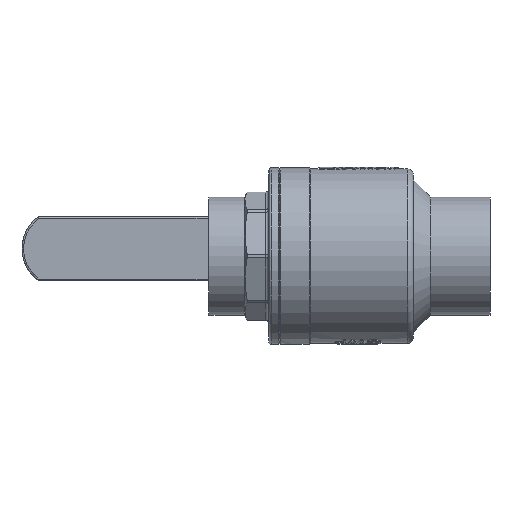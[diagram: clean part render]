
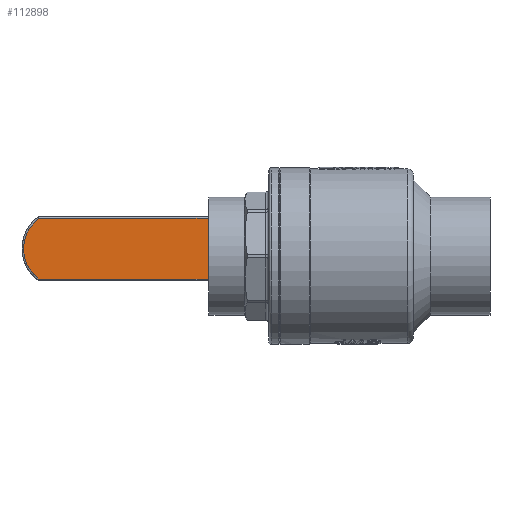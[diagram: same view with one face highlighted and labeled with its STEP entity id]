
A CAD part, front view. The second image highlights one B-rep face of the part: STEP entity #112898.
In plain terms, the highlighted planar face has unit normal (0, -1, 0).
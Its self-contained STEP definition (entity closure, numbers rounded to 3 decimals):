
#9947 = CARTESIAN_POINT ( 'NONE',  ( -154.632, -6., 19.75 ) ) ;
#12256 = ORIENTED_EDGE ( 'NONE', *, *, #86636, .T. ) ;
#14118 = CARTESIAN_POINT ( 'NONE',  ( -155.5, -6., -19.75 ) ) ;
#22752 = DIRECTION ( 'NONE',  ( 0., 0., -1. ) ) ;
#28459 = EDGE_CURVE ( 'NONE', #59121, #121316, #52976, .T. ) ;
#31543 = LINE ( 'NONE', #77990, #116975 ) ;
#32233 = DIRECTION ( 'NONE',  ( 1., 0., 0. ) ) ;
#35954 = PLANE ( 'NONE',  #100195 ) ;
#36471 = LINE ( 'NONE', #14118, #57100 ) ;
#37775 = CARTESIAN_POINT ( 'NONE',  ( -24.5, -6., 0. ) ) ;
#40899 = EDGE_CURVE ( 'NONE', #46714, #59121, #118966, .T. ) ;
#44635 = FACE_OUTER_BOUND ( 'NONE', #48994, .T. ) ;
#45483 = DIRECTION ( 'NONE',  ( 0., 1., 0. ) ) ;
#45872 = EDGE_CURVE ( 'NONE', #121316, #65372, #31543, .T. ) ;
#45971 = CARTESIAN_POINT ( 'NONE',  ( -155.066, -6., 19.75 ) ) ;
#46714 = VERTEX_POINT ( 'NONE', #76006 ) ;
#47649 = DIRECTION ( 'NONE',  ( -1., 0., 0. ) ) ;
#48994 = EDGE_LOOP ( 'NONE', ( #107323, #12256, #108089, #83907 ) ) ;
#52976 = LINE ( 'NONE', #45971, #66172 ) ;
#55943 = DIRECTION ( 'NONE',  ( -1., 0., 0. ) ) ;
#57100 = VECTOR ( 'NONE', #32233, 1000. ) ;
#59121 = VERTEX_POINT ( 'NONE', #105476 ) ;
#63253 = DIRECTION ( 'NONE',  ( -1., 0., 0. ) ) ;
#65372 = VERTEX_POINT ( 'NONE', #111420 ) ;
#66172 = VECTOR ( 'NONE', #55943, 1000. ) ;
#76006 = CARTESIAN_POINT ( 'NONE',  ( -10.002, -6., -19.75 ) ) ;
#77990 = CARTESIAN_POINT ( 'NONE',  ( -154.632, -6., -20.75 ) ) ;
#83802 = CARTESIAN_POINT ( 'NONE',  ( -155.5, -6., 19.75 ) ) ;
#83907 = ORIENTED_EDGE ( 'NONE', *, *, #28459, .T. ) ;
#85176 = DIRECTION ( 'NONE',  ( 0., -1., 0. ) ) ;
#86636 = EDGE_CURVE ( 'NONE', #65372, #46714, #36471, .T. ) ;
#100195 = AXIS2_PLACEMENT_3D ( 'NONE', #83802, #45483, #63253 ) ;
#105476 = CARTESIAN_POINT ( 'NONE',  ( -10.002, -6., 19.75 ) ) ;
#107323 = ORIENTED_EDGE ( 'NONE', *, *, #45872, .T. ) ;
#108089 = ORIENTED_EDGE ( 'NONE', *, *, #40899, .T. ) ;
#108656 = AXIS2_PLACEMENT_3D ( 'NONE', #37775, #85176, #47649 ) ;
#111420 = CARTESIAN_POINT ( 'NONE',  ( -154.632, -6., -19.75 ) ) ;
#112898 = ADVANCED_FACE ( 'NONE', ( #44635 ), #35954, .F. ) ;
#116975 = VECTOR ( 'NONE', #22752, 1000. ) ;
#118966 = CIRCLE ( 'NONE', #108656, 24.5 ) ;
#121316 = VERTEX_POINT ( 'NONE', #9947 ) ;
